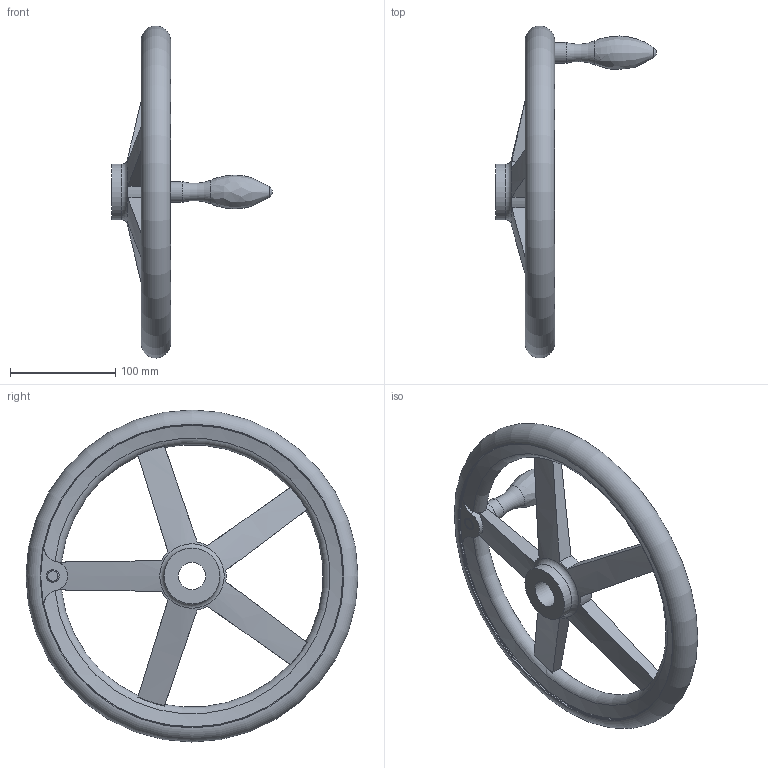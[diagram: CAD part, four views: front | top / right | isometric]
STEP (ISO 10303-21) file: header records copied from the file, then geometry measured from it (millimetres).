
FILE_DESCRIPTION( ( 'STEP AP203' ), '1' );
FILE_NAME( 'C:/Temp/Ganter_Step_05_03_2020/data/1_3/din_950/din_950_b/din_950_b_f/Handwheel DIN 950-GG-315-B26-F.stp', '2020-03-05T10:30:19', ( 'License CC BY-ND 4.0' ), ( 'CADENAS' ), ' ', 'PARTsolutions', ' ' );
FILE_SCHEMA( ( 'CONFIG_CONTROL_DESIGN' ) );
Length unit declared in the file: millimetre
Products named in the file (1): _Handwheel DIN 950-GG-315-B26-F
Bounding box: 152.5 x 314.93 x 314.93 mm (x, y, z)
Volume: 855197.4 mm3; surface area: 143266.8 mm2
Topology: 1 solids, 1 shells, 61 faces, 179 edges, 115 vertices
Faces by surface type: torus 21, cylinder 18, plane 15, cone 5, bspline 1, sphere 1
Full cylindrical faces by diameter (mm): 12 x1, 19.8 x1, 26 x1, 53 x2, 287 x2
Entity records: 2530 total; most frequent: CARTESIAN_POINT 1046, ORIENTED_EDGE 306, DIRECTION 270, EDGE_CURVE 153, AXIS2_PLACEMENT_3D 128, VERTEX_POINT 111, EDGE_LOOP 88, FACE_OUTER_BOUND 77
